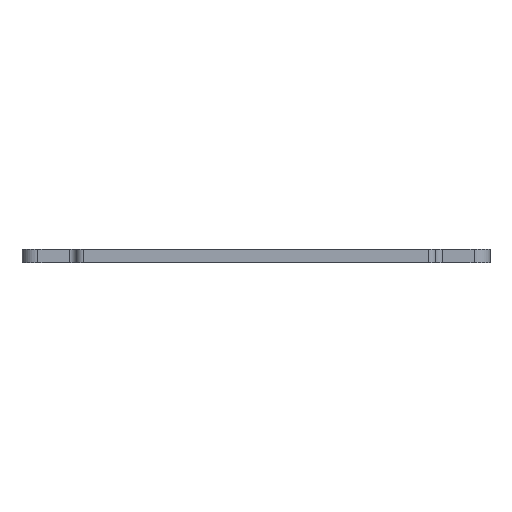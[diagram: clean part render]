
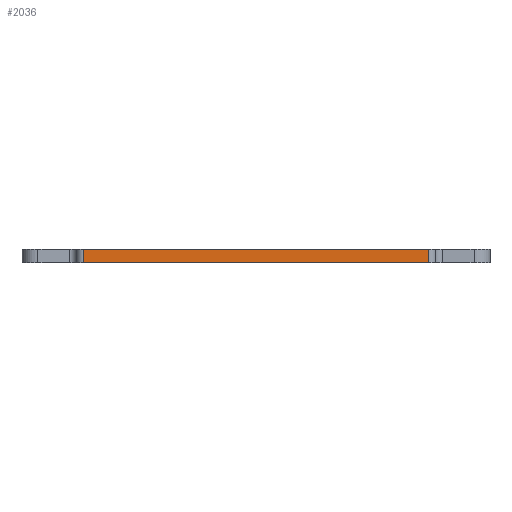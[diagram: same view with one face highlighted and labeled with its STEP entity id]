
A CAD part, front view. The second image highlights one B-rep face of the part: STEP entity #2036.
In plain terms, the highlighted planar face has unit normal (0, -1, 0).
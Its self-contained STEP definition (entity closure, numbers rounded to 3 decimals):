
#72 = PLANE('',#73);
#73 = AXIS2_PLACEMENT_3D('',#74,#75,#76);
#74 = CARTESIAN_POINT('',(-0.013,0.366,0.));
#75 = DIRECTION('',(-0.,-0.,-1.));
#76 = DIRECTION('',(-1.,0.,0.));
#126 = PLANE('',#127);
#127 = AXIS2_PLACEMENT_3D('',#128,#129,#130);
#128 = CARTESIAN_POINT('',(-0.013,0.366,3.));
#129 = DIRECTION('',(-0.,-0.,-1.));
#130 = DIRECTION('',(-1.,0.,0.));
#766 = VERTEX_POINT('',#767);
#767 = CARTESIAN_POINT('',(37.956,-79.05,0.));
#786 = CYLINDRICAL_SURFACE('',#787,1.5);
#787 = AXIS2_PLACEMENT_3D('',#788,#789,#790);
#788 = CARTESIAN_POINT('',(37.956,-77.55,0.));
#789 = DIRECTION('',(-0.,-0.,-1.));
#790 = DIRECTION('',(1.,0.,-0.));
#798 = EDGE_CURVE('',#799,#766,#801,.T.);
#799 = VERTEX_POINT('',#800);
#800 = CARTESIAN_POINT('',(-38.,-79.05,0.));
#801 = SURFACE_CURVE('',#802,(#806,#813),.PCURVE_S1.);
#802 = LINE('',#803,#804);
#803 = CARTESIAN_POINT('',(-38.,-79.05,0.));
#804 = VECTOR('',#805,1.);
#805 = DIRECTION('',(1.,0.,0.));
#806 = PCURVE('',#72,#807);
#807 = DEFINITIONAL_REPRESENTATION('',(#808),#812);
#808 = LINE('',#809,#810);
#809 = CARTESIAN_POINT('',(37.987,-79.416));
#810 = VECTOR('',#811,1.);
#811 = DIRECTION('',(-1.,0.));
#812 = ( GEOMETRIC_REPRESENTATION_CONTEXT(2) 
PARAMETRIC_REPRESENTATION_CONTEXT() REPRESENTATION_CONTEXT('2D SPACE',''
  ) );
#813 = PCURVE('',#814,#819);
#814 = PLANE('',#815);
#815 = AXIS2_PLACEMENT_3D('',#816,#817,#818);
#816 = CARTESIAN_POINT('',(-38.,-79.05,0.));
#817 = DIRECTION('',(0.,1.,0.));
#818 = DIRECTION('',(1.,0.,0.));
#819 = DEFINITIONAL_REPRESENTATION('',(#820),#824);
#820 = LINE('',#821,#822);
#821 = CARTESIAN_POINT('',(0.,0.));
#822 = VECTOR('',#823,1.);
#823 = DIRECTION('',(1.,0.));
#824 = ( GEOMETRIC_REPRESENTATION_CONTEXT(2) 
PARAMETRIC_REPRESENTATION_CONTEXT() REPRESENTATION_CONTEXT('2D SPACE',''
  ) );
#847 = CYLINDRICAL_SURFACE('',#848,1.5);
#848 = AXIS2_PLACEMENT_3D('',#849,#850,#851);
#849 = CARTESIAN_POINT('',(-38.,-77.55,0.));
#850 = DIRECTION('',(-0.,-0.,-1.));
#851 = DIRECTION('',(1.,0.,-0.));
#1514 = VERTEX_POINT('',#1515);
#1515 = CARTESIAN_POINT('',(37.956,-79.05,3.));
#1541 = EDGE_CURVE('',#1542,#1514,#1544,.T.);
#1542 = VERTEX_POINT('',#1543);
#1543 = CARTESIAN_POINT('',(-38.,-79.05,3.));
#1544 = SURFACE_CURVE('',#1545,(#1549,#1556),.PCURVE_S1.);
#1545 = LINE('',#1546,#1547);
#1546 = CARTESIAN_POINT('',(-38.,-79.05,3.));
#1547 = VECTOR('',#1548,1.);
#1548 = DIRECTION('',(1.,0.,0.));
#1549 = PCURVE('',#126,#1550);
#1550 = DEFINITIONAL_REPRESENTATION('',(#1551),#1555);
#1551 = LINE('',#1552,#1553);
#1552 = CARTESIAN_POINT('',(37.987,-79.416));
#1553 = VECTOR('',#1554,1.);
#1554 = DIRECTION('',(-1.,0.));
#1555 = ( GEOMETRIC_REPRESENTATION_CONTEXT(2) 
PARAMETRIC_REPRESENTATION_CONTEXT() REPRESENTATION_CONTEXT('2D SPACE',''
  ) );
#1556 = PCURVE('',#814,#1557);
#1557 = DEFINITIONAL_REPRESENTATION('',(#1558),#1562);
#1558 = LINE('',#1559,#1560);
#1559 = CARTESIAN_POINT('',(0.,-3.));
#1560 = VECTOR('',#1561,1.);
#1561 = DIRECTION('',(1.,0.));
#1562 = ( GEOMETRIC_REPRESENTATION_CONTEXT(2) 
PARAMETRIC_REPRESENTATION_CONTEXT() REPRESENTATION_CONTEXT('2D SPACE',''
  ) );
#1986 = EDGE_CURVE('',#799,#1542,#1987,.T.);
#1987 = SURFACE_CURVE('',#1988,(#1992,#1999),.PCURVE_S1.);
#1988 = LINE('',#1989,#1990);
#1989 = CARTESIAN_POINT('',(-38.,-79.05,0.));
#1990 = VECTOR('',#1991,1.);
#1991 = DIRECTION('',(0.,0.,1.));
#1992 = PCURVE('',#847,#1993);
#1993 = DEFINITIONAL_REPRESENTATION('',(#1994),#1998);
#1994 = LINE('',#1995,#1996);
#1995 = CARTESIAN_POINT('',(-4.712,0.));
#1996 = VECTOR('',#1997,1.);
#1997 = DIRECTION('',(-0.,-1.));
#1998 = ( GEOMETRIC_REPRESENTATION_CONTEXT(2) 
PARAMETRIC_REPRESENTATION_CONTEXT() REPRESENTATION_CONTEXT('2D SPACE',''
  ) );
#1999 = PCURVE('',#814,#2000);
#2000 = DEFINITIONAL_REPRESENTATION('',(#2001),#2005);
#2001 = LINE('',#2002,#2003);
#2002 = CARTESIAN_POINT('',(0.,0.));
#2003 = VECTOR('',#2004,1.);
#2004 = DIRECTION('',(0.,-1.));
#2005 = ( GEOMETRIC_REPRESENTATION_CONTEXT(2) 
PARAMETRIC_REPRESENTATION_CONTEXT() REPRESENTATION_CONTEXT('2D SPACE',''
  ) );
#2036 = ADVANCED_FACE('',(#2037),#814,.F.);
#2037 = FACE_BOUND('',#2038,.F.);
#2038 = EDGE_LOOP('',(#2039,#2060,#2061,#2062));
#2039 = ORIENTED_EDGE('',*,*,#2040,.F.);
#2040 = EDGE_CURVE('',#766,#1514,#2041,.T.);
#2041 = SURFACE_CURVE('',#2042,(#2046,#2053),.PCURVE_S1.);
#2042 = LINE('',#2043,#2044);
#2043 = CARTESIAN_POINT('',(37.956,-79.05,0.));
#2044 = VECTOR('',#2045,1.);
#2045 = DIRECTION('',(0.,0.,1.));
#2046 = PCURVE('',#814,#2047);
#2047 = DEFINITIONAL_REPRESENTATION('',(#2048),#2052);
#2048 = LINE('',#2049,#2050);
#2049 = CARTESIAN_POINT('',(75.956,0.));
#2050 = VECTOR('',#2051,1.);
#2051 = DIRECTION('',(0.,-1.));
#2052 = ( GEOMETRIC_REPRESENTATION_CONTEXT(2) 
PARAMETRIC_REPRESENTATION_CONTEXT() REPRESENTATION_CONTEXT('2D SPACE',''
  ) );
#2053 = PCURVE('',#786,#2054);
#2054 = DEFINITIONAL_REPRESENTATION('',(#2055),#2059);
#2055 = LINE('',#2056,#2057);
#2056 = CARTESIAN_POINT('',(-4.712,0.));
#2057 = VECTOR('',#2058,1.);
#2058 = DIRECTION('',(-0.,-1.));
#2059 = ( GEOMETRIC_REPRESENTATION_CONTEXT(2) 
PARAMETRIC_REPRESENTATION_CONTEXT() REPRESENTATION_CONTEXT('2D SPACE',''
  ) );
#2060 = ORIENTED_EDGE('',*,*,#798,.F.);
#2061 = ORIENTED_EDGE('',*,*,#1986,.T.);
#2062 = ORIENTED_EDGE('',*,*,#1541,.T.);
